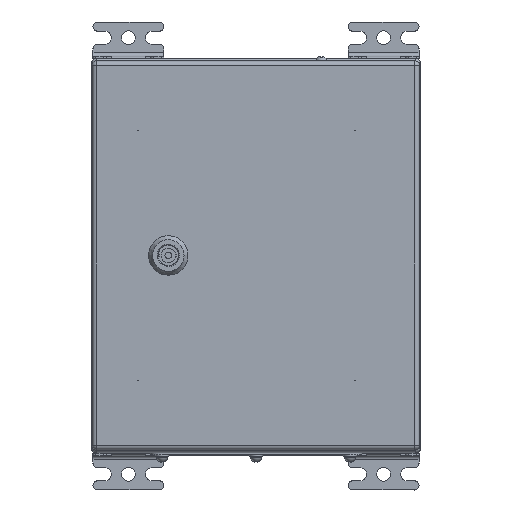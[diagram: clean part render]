
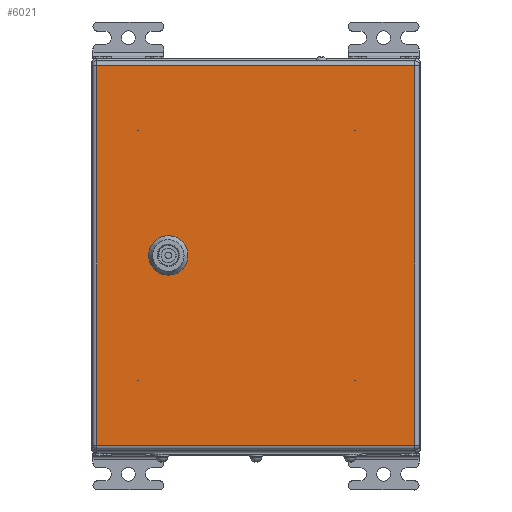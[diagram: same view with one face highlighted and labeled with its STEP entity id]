
A CAD part, top view. The second image highlights one B-rep face of the part: STEP entity #6021.
In plain terms, the highlighted planar face has unit normal (0, 0, 1).
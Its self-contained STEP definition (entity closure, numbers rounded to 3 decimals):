
#6021=ADVANCED_FACE('',(#13979,#13981),#13983,.T.);
#13979=FACE_BOUND('',#13980,.T.);
#13980=EDGE_LOOP('',(#36340,#36341,#36342,#36343));
#13981=FACE_BOUND('',#13982,.T.);
#13982=EDGE_LOOP('',(#36344,#36345,#36346,#36347,#36348,#36349,#36350,#36351));
#13983=PLANE('',#13984);
#13984=AXIS2_PLACEMENT_3D('',#13985,#13986,#13987);
#13985=CARTESIAN_POINT('',(0.,0.,1.5));
#13986=DIRECTION('',(0.,0.,1.));
#13987=DIRECTION('',(1.,0.,0.));
#36340=ORIENTED_EDGE('',*,*,#40616,.T.);
#36341=ORIENTED_EDGE('',*,*,#40617,.T.);
#36342=ORIENTED_EDGE('',*,*,#40618,.T.);
#36343=ORIENTED_EDGE('',*,*,#40619,.T.);
#36344=ORIENTED_EDGE('',*,*,#40578,.T.);
#36345=ORIENTED_EDGE('',*,*,#40593,.T.);
#36346=ORIENTED_EDGE('',*,*,#40591,.T.);
#36347=ORIENTED_EDGE('',*,*,#40589,.T.);
#36348=ORIENTED_EDGE('',*,*,#40587,.T.);
#36349=ORIENTED_EDGE('',*,*,#40585,.T.);
#36350=ORIENTED_EDGE('',*,*,#40583,.T.);
#36351=ORIENTED_EDGE('',*,*,#40581,.T.);
#40578=EDGE_CURVE('',#44084,#44085,#44086,.F.);
#40581=EDGE_CURVE('',#44089,#44084,#44090,.F.);
#40583=EDGE_CURVE('',#44092,#44089,#44093,.F.);
#40585=EDGE_CURVE('',#44095,#44092,#44096,.F.);
#40587=EDGE_CURVE('',#44098,#44095,#44099,.F.);
#40589=EDGE_CURVE('',#44101,#44098,#44102,.F.);
#40591=EDGE_CURVE('',#44104,#44101,#44105,.F.);
#40593=EDGE_CURVE('',#44085,#44104,#44107,.F.);
#40616=EDGE_CURVE('',#44144,#44145,#44146,.T.);
#40617=EDGE_CURVE('',#44145,#44147,#44148,.T.);
#40618=EDGE_CURVE('',#44147,#44149,#44150,.T.);
#40619=EDGE_CURVE('',#44149,#44144,#44151,.T.);
#44084=VERTEX_POINT('',#53480);
#44085=VERTEX_POINT('',#53481);
#44086=LINE('',#53482,#53483);
#44089=VERTEX_POINT('',#53491);
#44090=CIRCLE('',#53492,11.25);
#44092=VERTEX_POINT('',#53499);
#44093=LINE('',#53500,#53501);
#44095=VERTEX_POINT('',#53506);
#44096=CIRCLE('',#53507,11.25);
#44098=VERTEX_POINT('',#53514);
#44099=LINE('',#53515,#53516);
#44101=VERTEX_POINT('',#53521);
#44102=CIRCLE('',#53522,11.25);
#44104=VERTEX_POINT('',#53529);
#44105=LINE('',#53530,#53531);
#44107=CIRCLE('',#53536,11.25);
#44144=VERTEX_POINT('',#53626);
#44145=VERTEX_POINT('',#53627);
#44146=LINE('',#53628,#53629);
#44147=VERTEX_POINT('',#53631);
#44148=LINE('',#53632,#53633);
#44149=VERTEX_POINT('',#53635);
#44150=LINE('',#53636,#53637);
#44151=LINE('',#53639,#53640);
#53480=CARTESIAN_POINT('',(-139.545,-64.6,1.5));
#53481=CARTESIAN_POINT('',(-149.455,-64.6,1.5));
#53482=CARTESIAN_POINT('',(-149.455,-64.6,1.5));
#53483=VECTOR('',#53484,1.);
#53484=DIRECTION('',(1.,0.,0.));
#53491=CARTESIAN_POINT('',(-134.4,-59.455,1.5));
#53492=AXIS2_PLACEMENT_3D('',#53493,#53494,#53495);
#53493=CARTESIAN_POINT('',(-144.5,-54.5,1.5));
#53494=DIRECTION('',(0.,0.,1.));
#53495=DIRECTION('',(0.44,-0.898,0.));
#53499=CARTESIAN_POINT('',(-134.4,-49.545,1.5));
#53500=CARTESIAN_POINT('',(-134.4,-59.455,1.5));
#53501=VECTOR('',#53502,1.);
#53502=DIRECTION('',(0.,1.,0.));
#53506=CARTESIAN_POINT('',(-139.545,-44.4,1.5));
#53507=AXIS2_PLACEMENT_3D('',#53508,#53509,#53510);
#53508=CARTESIAN_POINT('',(-144.5,-54.5,1.5));
#53509=DIRECTION('',(0.,0.,1.));
#53510=DIRECTION('',(0.898,0.44,0.));
#53514=CARTESIAN_POINT('',(-149.455,-44.4,1.5));
#53515=CARTESIAN_POINT('',(-139.545,-44.4,1.5));
#53516=VECTOR('',#53517,1.);
#53517=DIRECTION('',(-1.,0.,0.));
#53521=CARTESIAN_POINT('',(-154.6,-49.545,1.5));
#53522=AXIS2_PLACEMENT_3D('',#53523,#53524,#53525);
#53523=CARTESIAN_POINT('',(-144.5,-54.5,1.5));
#53524=DIRECTION('',(0.,0.,1.));
#53525=DIRECTION('',(-0.44,0.898,0.));
#53529=CARTESIAN_POINT('',(-154.6,-59.455,1.5));
#53530=CARTESIAN_POINT('',(-154.6,-49.545,1.5));
#53531=VECTOR('',#53532,1.);
#53532=DIRECTION('',(0.,-1.,0.));
#53536=AXIS2_PLACEMENT_3D('',#53537,#53538,#53539);
#53537=CARTESIAN_POINT('',(-144.5,-54.5,1.5));
#53538=DIRECTION('',(0.,0.,1.));
#53539=DIRECTION('',(-0.898,-0.44,0.));
#53626=CARTESIAN_POINT('',(-289.,0.,1.5));
#53627=CARTESIAN_POINT('',(-289.,-242.,1.5));
#53628=CARTESIAN_POINT('',(-289.,0.,1.5));
#53629=VECTOR('',#53630,1.);
#53630=DIRECTION('',(0.,-1.,0.));
#53631=CARTESIAN_POINT('',(0.,-242.,1.5));
#53632=CARTESIAN_POINT('',(-289.,-242.,1.5));
#53633=VECTOR('',#53634,1.);
#53634=DIRECTION('',(1.,0.,0.));
#53635=CARTESIAN_POINT('',(0.,0.,1.5));
#53636=CARTESIAN_POINT('',(0.,-242.,1.5));
#53637=VECTOR('',#53638,1.);
#53638=DIRECTION('',(0.,1.,0.));
#53639=CARTESIAN_POINT('',(0.,0.,1.5));
#53640=VECTOR('',#53641,1.);
#53641=DIRECTION('',(-1.,0.,0.));
